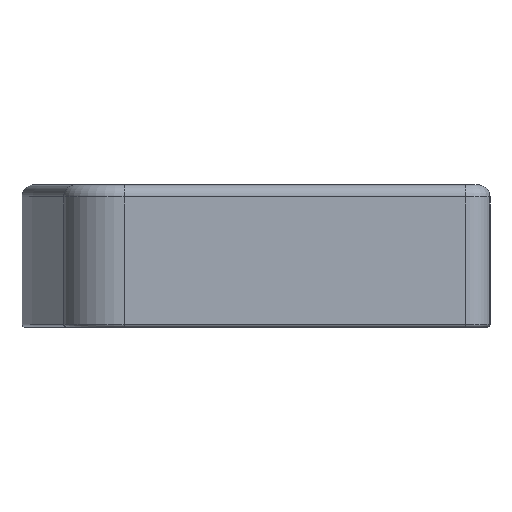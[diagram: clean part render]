
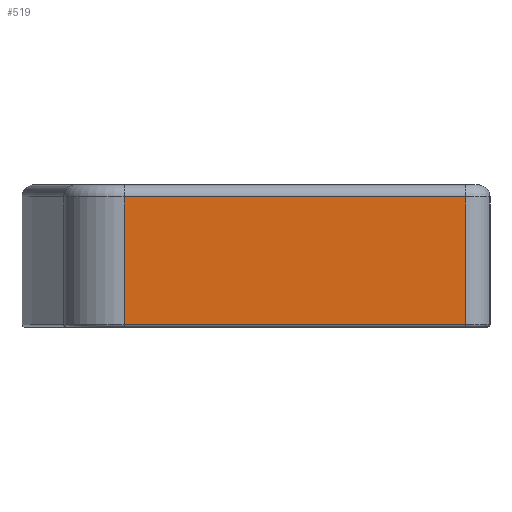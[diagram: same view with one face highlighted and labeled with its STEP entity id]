
A CAD part, left-side view. The second image highlights one B-rep face of the part: STEP entity #519.
In plain terms, the highlighted planar face has unit normal (-1, 0, 0).
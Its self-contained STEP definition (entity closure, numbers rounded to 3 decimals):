
#70 = CYLINDRICAL_SURFACE('',#71,12.);
#71 = AXIS2_PLACEMENT_3D('',#72,#73,#74);
#72 = CARTESIAN_POINT('',(-357.,12.,0.));
#73 = DIRECTION('',(-0.,-0.,-1.));
#74 = DIRECTION('',(-1.,0.,0.));
#167 = EDGE_CURVE('',#168,#170,#172,.T.);
#168 = VERTEX_POINT('',#169);
#169 = CARTESIAN_POINT('',(-369.,12.,1.5));
#170 = VERTEX_POINT('',#171);
#171 = CARTESIAN_POINT('',(-369.,12.,64.));
#172 = SURFACE_CURVE('',#173,(#177,#184),.PCURVE_S1.);
#173 = LINE('',#174,#175);
#174 = CARTESIAN_POINT('',(-369.,12.,0.));
#175 = VECTOR('',#176,1.);
#176 = DIRECTION('',(0.,0.,1.));
#177 = PCURVE('',#70,#178);
#178 = DEFINITIONAL_REPRESENTATION('',(#179),#183);
#179 = LINE('',#180,#181);
#180 = CARTESIAN_POINT('',(-0.,0.));
#181 = VECTOR('',#182,1.);
#182 = DIRECTION('',(-0.,-1.));
#183 = ( GEOMETRIC_REPRESENTATION_CONTEXT(2) 
PARAMETRIC_REPRESENTATION_CONTEXT() REPRESENTATION_CONTEXT('2D SPACE',''
  ) );
#184 = PCURVE('',#185,#190);
#185 = PLANE('',#186);
#186 = AXIS2_PLACEMENT_3D('',#187,#188,#189);
#187 = CARTESIAN_POINT('',(-369.,179.788,0.));
#188 = DIRECTION('',(1.,0.,-0.));
#189 = DIRECTION('',(0.,-1.,0.));
#190 = DEFINITIONAL_REPRESENTATION('',(#191),#195);
#191 = LINE('',#192,#193);
#192 = CARTESIAN_POINT('',(167.788,0.));
#193 = VECTOR('',#194,1.);
#194 = DIRECTION('',(0.,-1.));
#195 = ( GEOMETRIC_REPRESENTATION_CONTEXT(2) 
PARAMETRIC_REPRESENTATION_CONTEXT() REPRESENTATION_CONTEXT('2D SPACE',''
  ) );
#519 = ADVANCED_FACE('',(#520),#185,.F.);
#520 = FACE_BOUND('',#521,.F.);
#521 = EDGE_LOOP('',(#522,#552,#578,#579));
#522 = ORIENTED_EDGE('',*,*,#523,.T.);
#523 = EDGE_CURVE('',#524,#526,#528,.T.);
#524 = VERTEX_POINT('',#525);
#525 = CARTESIAN_POINT('',(-369.,179.788,1.5));
#526 = VERTEX_POINT('',#527);
#527 = CARTESIAN_POINT('',(-369.,179.788,64.));
#528 = SURFACE_CURVE('',#529,(#533,#540),.PCURVE_S1.);
#529 = LINE('',#530,#531);
#530 = CARTESIAN_POINT('',(-369.,179.788,0.));
#531 = VECTOR('',#532,1.);
#532 = DIRECTION('',(0.,0.,1.));
#533 = PCURVE('',#185,#534);
#534 = DEFINITIONAL_REPRESENTATION('',(#535),#539);
#535 = LINE('',#536,#537);
#536 = CARTESIAN_POINT('',(0.,0.));
#537 = VECTOR('',#538,1.);
#538 = DIRECTION('',(0.,-1.));
#539 = ( GEOMETRIC_REPRESENTATION_CONTEXT(2) 
PARAMETRIC_REPRESENTATION_CONTEXT() REPRESENTATION_CONTEXT('2D SPACE',''
  ) );
#540 = PCURVE('',#541,#546);
#541 = CYLINDRICAL_SURFACE('',#542,30.);
#542 = AXIS2_PLACEMENT_3D('',#543,#544,#545);
#543 = CARTESIAN_POINT('',(-339.,179.788,0.));
#544 = DIRECTION('',(-0.,-0.,-1.));
#545 = DIRECTION('',(-0.119,0.993,0.));
#546 = DEFINITIONAL_REPRESENTATION('',(#547),#551);
#547 = LINE('',#548,#549);
#548 = CARTESIAN_POINT('',(-1.452,0.));
#549 = VECTOR('',#550,1.);
#550 = DIRECTION('',(-0.,-1.));
#551 = ( GEOMETRIC_REPRESENTATION_CONTEXT(2) 
PARAMETRIC_REPRESENTATION_CONTEXT() REPRESENTATION_CONTEXT('2D SPACE',''
  ) );
#552 = ORIENTED_EDGE('',*,*,#553,.T.);
#553 = EDGE_CURVE('',#526,#170,#554,.T.);
#554 = SURFACE_CURVE('',#555,(#559,#566),.PCURVE_S1.);
#555 = LINE('',#556,#557);
#556 = CARTESIAN_POINT('',(-369.,179.788,64.));
#557 = VECTOR('',#558,1.);
#558 = DIRECTION('',(0.,-1.,0.));
#559 = PCURVE('',#185,#560);
#560 = DEFINITIONAL_REPRESENTATION('',(#561),#565);
#561 = LINE('',#562,#563);
#562 = CARTESIAN_POINT('',(0.,-64.));
#563 = VECTOR('',#564,1.);
#564 = DIRECTION('',(1.,0.));
#565 = ( GEOMETRIC_REPRESENTATION_CONTEXT(2) 
PARAMETRIC_REPRESENTATION_CONTEXT() REPRESENTATION_CONTEXT('2D SPACE',''
  ) );
#566 = PCURVE('',#567,#572);
#567 = CYLINDRICAL_SURFACE('',#568,6.);
#568 = AXIS2_PLACEMENT_3D('',#569,#570,#571);
#569 = CARTESIAN_POINT('',(-363.,179.788,64.));
#570 = DIRECTION('',(0.,-1.,0.));
#571 = DIRECTION('',(-1.,-0.,0.));
#572 = DEFINITIONAL_REPRESENTATION('',(#573),#577);
#573 = LINE('',#574,#575);
#574 = CARTESIAN_POINT('',(-0.,0.));
#575 = VECTOR('',#576,1.);
#576 = DIRECTION('',(-0.,1.));
#577 = ( GEOMETRIC_REPRESENTATION_CONTEXT(2) 
PARAMETRIC_REPRESENTATION_CONTEXT() REPRESENTATION_CONTEXT('2D SPACE',''
  ) );
#578 = ORIENTED_EDGE('',*,*,#167,.F.);
#579 = ORIENTED_EDGE('',*,*,#580,.F.);
#580 = EDGE_CURVE('',#524,#168,#581,.T.);
#581 = SURFACE_CURVE('',#582,(#586,#593),.PCURVE_S1.);
#582 = LINE('',#583,#584);
#583 = CARTESIAN_POINT('',(-369.,179.788,1.5));
#584 = VECTOR('',#585,1.);
#585 = DIRECTION('',(0.,-1.,0.));
#586 = PCURVE('',#185,#587);
#587 = DEFINITIONAL_REPRESENTATION('',(#588),#592);
#588 = LINE('',#589,#590);
#589 = CARTESIAN_POINT('',(0.,-1.5));
#590 = VECTOR('',#591,1.);
#591 = DIRECTION('',(1.,0.));
#592 = ( GEOMETRIC_REPRESENTATION_CONTEXT(2) 
PARAMETRIC_REPRESENTATION_CONTEXT() REPRESENTATION_CONTEXT('2D SPACE',''
  ) );
#593 = PCURVE('',#594,#599);
#594 = CYLINDRICAL_SURFACE('',#595,1.5);
#595 = AXIS2_PLACEMENT_3D('',#596,#597,#598);
#596 = CARTESIAN_POINT('',(-367.5,179.788,1.5));
#597 = DIRECTION('',(0.,-1.,0.));
#598 = DIRECTION('',(-1.,-0.,0.));
#599 = DEFINITIONAL_REPRESENTATION('',(#600),#604);
#600 = LINE('',#601,#602);
#601 = CARTESIAN_POINT('',(0.,0.));
#602 = VECTOR('',#603,1.);
#603 = DIRECTION('',(0.,1.));
#604 = ( GEOMETRIC_REPRESENTATION_CONTEXT(2) 
PARAMETRIC_REPRESENTATION_CONTEXT() REPRESENTATION_CONTEXT('2D SPACE',''
  ) );
